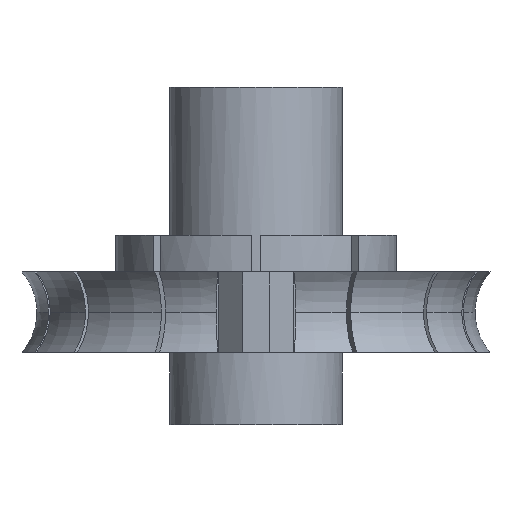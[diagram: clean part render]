
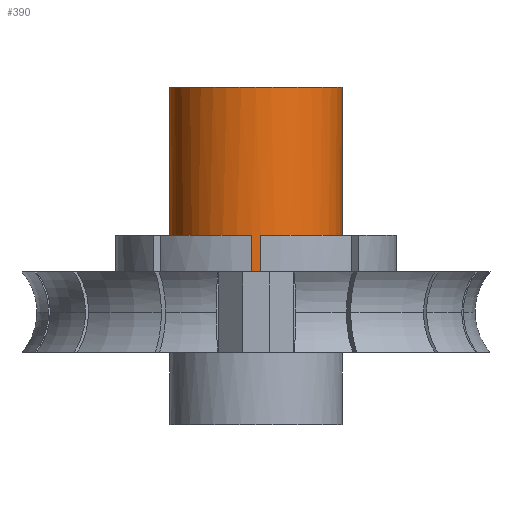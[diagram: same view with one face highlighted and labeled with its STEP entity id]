
A CAD part, front view. The second image highlights one B-rep face of the part: STEP entity #390.
In plain terms, the highlighted cylindrical face has radius 46 mm (diameter 92 mm), a partial arc.
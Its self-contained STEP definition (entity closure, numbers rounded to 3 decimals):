
#390=ADVANCED_FACE('',(#796),#797,.T.);
#796=FACE_OUTER_BOUND('',#1217,.T.);
#797=CYLINDRICAL_SURFACE('',#1218,46.);
#1217=EDGE_LOOP('',(#2413,#2414,#2415,#2416,#2417,#2418,#2419,#2420,#2421,#2422,#2423,#2424,#2425,#2426,#2427,#2428,#2429,#2430,#2431,#2432));
#1218=AXIS2_PLACEMENT_3D('',#2433,#2434,#2435);
#2413=ORIENTED_EDGE('',*,*,#3029,.F.);
#2414=ORIENTED_EDGE('',*,*,#3058,.T.);
#2415=ORIENTED_EDGE('',*,*,#3039,.F.);
#2416=ORIENTED_EDGE('',*,*,#2775,.T.);
#2417=ORIENTED_EDGE('',*,*,#2997,.T.);
#2418=ORIENTED_EDGE('',*,*,#3062,.F.);
#2419=ORIENTED_EDGE('',*,*,#2942,.T.);
#2420=ORIENTED_EDGE('',*,*,#3119,.T.);
#2421=ORIENTED_EDGE('',*,*,#2928,.T.);
#2422=ORIENTED_EDGE('',*,*,#3150,.F.);
#2423=ORIENTED_EDGE('',*,*,#3000,.T.);
#2424=ORIENTED_EDGE('',*,*,#2719,.T.);
#2425=ORIENTED_EDGE('',*,*,#3069,.T.);
#2426=ORIENTED_EDGE('',*,*,#3111,.F.);
#2427=ORIENTED_EDGE('',*,*,#2992,.T.);
#2428=ORIENTED_EDGE('',*,*,#2988,.T.);
#2429=ORIENTED_EDGE('',*,*,#3151,.T.);
#2430=ORIENTED_EDGE('',*,*,#3074,.F.);
#2431=ORIENTED_EDGE('',*,*,#3152,.T.);
#2432=ORIENTED_EDGE('',*,*,#3147,.T.);
#2433=CARTESIAN_POINT('',(0.0,0.,122.));
#2434=DIRECTION('',(0.0,0.,-1.0));
#2435=DIRECTION('',(1.0,0.0,0.0));
#2719=EDGE_CURVE('',#3327,#3325,#3328,.T.);
#2775=EDGE_CURVE('',#3424,#3422,#3425,.T.);
#2928=EDGE_CURVE('',#3658,#3656,#3659,.T.);
#2942=EDGE_CURVE('',#3679,#3677,#3680,.T.);
#2988=EDGE_CURVE('',#3747,#3745,#3748,.T.);
#2992=EDGE_CURVE('',#3753,#3747,#3754,.T.);
#2997=EDGE_CURVE('',#3422,#3759,#3761,.T.);
#3000=EDGE_CURVE('',#3765,#3327,#3766,.T.);
#3029=EDGE_CURVE('',#3806,#3807,#3808,.T.);
#3039=EDGE_CURVE('',#3424,#3821,#3822,.T.);
#3058=EDGE_CURVE('',#3806,#3821,#3847,.T.);
#3062=EDGE_CURVE('',#3679,#3759,#3851,.T.);
#3069=EDGE_CURVE('',#3325,#3858,#3860,.T.);
#3074=EDGE_CURVE('',#3867,#3862,#3869,.T.);
#3111=EDGE_CURVE('',#3753,#3858,#3913,.T.);
#3119=EDGE_CURVE('',#3677,#3658,#3921,.T.);
#3147=EDGE_CURVE('',#3953,#3807,#3954,.T.);
#3150=EDGE_CURVE('',#3765,#3656,#3957,.T.);
#3151=EDGE_CURVE('',#3745,#3862,#3958,.T.);
#3152=EDGE_CURVE('',#3867,#3953,#3959,.T.);
#3325=VERTEX_POINT('',#4468);
#3327=VERTEX_POINT('',#4471);
#3328=CIRCLE('',#4472,46.0);
#3422=VERTEX_POINT('',#4867);
#3424=VERTEX_POINT('',#4870);
#3425=CIRCLE('',#4871,46.0);
#3656=VERTEX_POINT('',#6058);
#3658=VERTEX_POINT('',#6061);
#3659=LINE('',#6062,#6063);
#3677=VERTEX_POINT('',#6121);
#3679=VERTEX_POINT('',#6124);
#3680=LINE('',#6125,#6126);
#3745=VERTEX_POINT('',#6470);
#3747=VERTEX_POINT('',#6473);
#3748=CIRCLE('',#6474,46.0);
#3753=VERTEX_POINT('',#6481);
#3754=LINE('',#6482,#6483);
#3759=VERTEX_POINT('',#6490);
#3761=LINE('',#6493,#6494);
#3765=VERTEX_POINT('',#6499);
#3766=LINE('',#6500,#6501);
#3806=VERTEX_POINT('',#6683);
#3807=VERTEX_POINT('',#6684);
#3808=LINE('',#6685,#6686);
#3821=VERTEX_POINT('',#6704);
#3822=LINE('',#6705,#6706);
#3847=CIRCLE('',#6867,46.);
#3851=CIRCLE('',#6872,46.);
#3858=VERTEX_POINT('',#6881);
#3860=LINE('',#6884,#6885);
#3862=VERTEX_POINT('',#6887);
#3867=VERTEX_POINT('',#6893);
#3869=CIRCLE('',#6896,46.);
#3913=CIRCLE('',#6961,46.);
#3921=CIRCLE('',#6971,46.0);
#3953=VERTEX_POINT('',#7011);
#3954=CIRCLE('',#7012,46.0);
#3957=CIRCLE('',#7016,46.);
#3958=LINE('',#7017,#7018);
#3959=LINE('',#7019,#7020);
#4468=CARTESIAN_POINT('',(2.5,-45.932,63.001));
#4471=CARTESIAN_POINT('',(-2.5,-45.932,63.001));
#4472=AXIS2_PLACEMENT_3D('',#7103,#7104,#7105);
#4867=CARTESIAN_POINT('',(-45.932,-2.5,63.001));
#4870=CARTESIAN_POINT('',(-46.,0.,63.001));
#4871=AXIS2_PLACEMENT_3D('',#7153,#7154,#7155);
#6058=CARTESIAN_POINT('',(-30.711,-34.247,82.5));
#6061=CARTESIAN_POINT('',(-30.711,-34.247,63.001));
#6062=CARTESIAN_POINT('',(-30.711,-34.247,82.501));
#6063=VECTOR('',#7270,1.0);
#6121=CARTESIAN_POINT('',(-34.247,-30.711,63.001));
#6124=CARTESIAN_POINT('',(-34.247,-30.711,82.5));
#6125=CARTESIAN_POINT('',(-34.247,-30.711,82.501));
#6126=VECTOR('',#7279,1.0);
#6470=CARTESIAN_POINT('',(34.247,-30.711,63.001));
#6473=CARTESIAN_POINT('',(30.711,-34.247,63.001));
#6474=AXIS2_PLACEMENT_3D('',#7320,#7321,#7322);
#6481=CARTESIAN_POINT('',(30.711,-34.247,82.5));
#6482=CARTESIAN_POINT('',(30.711,-34.247,82.501));
#6483=VECTOR('',#7325,1.0);
#6490=CARTESIAN_POINT('',(-45.932,-2.5,82.5));
#6493=CARTESIAN_POINT('',(-45.932,-2.5,82.501));
#6494=VECTOR('',#7329,1.0);
#6499=CARTESIAN_POINT('',(-2.5,-45.932,82.5));
#6500=CARTESIAN_POINT('',(-2.5,-45.932,82.501));
#6501=VECTOR('',#7331,1.0);
#6683=CARTESIAN_POINT('',(46.,0.,161.5));
#6684=CARTESIAN_POINT('',(46.,0.,63.001));
#6685=CARTESIAN_POINT('',(46.,0.,122.));
#6686=VECTOR('',#7357,1.0);
#6704=CARTESIAN_POINT('',(-46.,0.,161.5));
#6705=CARTESIAN_POINT('',(-46.,0.,122.));
#6706=VECTOR('',#7375,1.0);
#6867=AXIS2_PLACEMENT_3D('',#7392,#7393,#7394);
#6872=AXIS2_PLACEMENT_3D('',#7396,#7397,#7398);
#6881=CARTESIAN_POINT('',(2.5,-45.932,82.5));
#6884=CARTESIAN_POINT('',(2.5,-45.932,82.501));
#6885=VECTOR('',#7405,1.0);
#6887=CARTESIAN_POINT('',(34.247,-30.711,82.5));
#6893=CARTESIAN_POINT('',(45.932,-2.5,82.5));
#6896=AXIS2_PLACEMENT_3D('',#7411,#7412,#7413);
#6961=AXIS2_PLACEMENT_3D('',#7462,#7463,#7464);
#6971=AXIS2_PLACEMENT_3D('',#7473,#7474,#7475);
#7011=CARTESIAN_POINT('',(45.932,-2.5,63.001));
#7012=AXIS2_PLACEMENT_3D('',#7499,#7500,#7501);
#7016=AXIS2_PLACEMENT_3D('',#7503,#7504,#7505);
#7017=CARTESIAN_POINT('',(34.247,-30.711,82.501));
#7018=VECTOR('',#7506,1.0);
#7019=CARTESIAN_POINT('',(45.932,-2.5,82.501));
#7020=VECTOR('',#7507,1.0);
#7103=CARTESIAN_POINT('',(0.,0.,63.001));
#7104=DIRECTION('',(0.0,-0.0,1.0));
#7105=DIRECTION('',(0.,1.0,0.0));
#7153=CARTESIAN_POINT('',(0.,0.,63.001));
#7154=DIRECTION('',(0.0,0.0,1.0));
#7155=DIRECTION('',(1.0,0.,0.0));
#7270=DIRECTION('',(0.0,0.0,1.0));
#7279=DIRECTION('',(0.0,0.0,-1.0));
#7320=CARTESIAN_POINT('',(0.,0.,63.001));
#7321=DIRECTION('',(0.0,0.0,1.0));
#7322=DIRECTION('',(-0.707,0.707,0.0));
#7325=DIRECTION('',(0.0,0.0,-1.0));
#7329=DIRECTION('',(0.0,0.0,1.0));
#7331=DIRECTION('',(0.0,0.0,-1.0));
#7357=DIRECTION('',(0.0,0.,-1.0));
#7375=DIRECTION('',(-0.0,0.,1.0));
#7392=CARTESIAN_POINT('',(0.0,0.,161.5));
#7393=DIRECTION('',(0.0,0.,-1.0));
#7394=DIRECTION('',(1.0,0.0,0.0));
#7396=CARTESIAN_POINT('',(0.0,0.,82.5));
#7397=DIRECTION('',(0.0,0.,-1.0));
#7398=DIRECTION('',(1.0,0.0,0.0));
#7405=DIRECTION('',(0.0,0.0,1.0));
#7411=CARTESIAN_POINT('',(0.0,0.,82.5));
#7412=DIRECTION('',(0.0,0.,-1.0));
#7413=DIRECTION('',(1.0,0.0,0.0));
#7462=CARTESIAN_POINT('',(0.0,0.,82.5));
#7463=DIRECTION('',(0.0,0.,-1.0));
#7464=DIRECTION('',(1.0,0.0,0.0));
#7473=CARTESIAN_POINT('',(0.,0.,63.001));
#7474=DIRECTION('',(0.0,-0.0,1.0));
#7475=DIRECTION('',(0.707,0.707,0.0));
#7499=CARTESIAN_POINT('',(0.,0.,63.001));
#7500=DIRECTION('',(0.0,0.0,1.0));
#7501=DIRECTION('',(1.0,0.,0.0));
#7503=CARTESIAN_POINT('',(0.0,0.,82.5));
#7504=DIRECTION('',(0.0,0.,-1.0));
#7505=DIRECTION('',(1.0,0.0,0.0));
#7506=DIRECTION('',(0.0,0.0,1.0));
#7507=DIRECTION('',(-0.0,0.0,-1.0));
